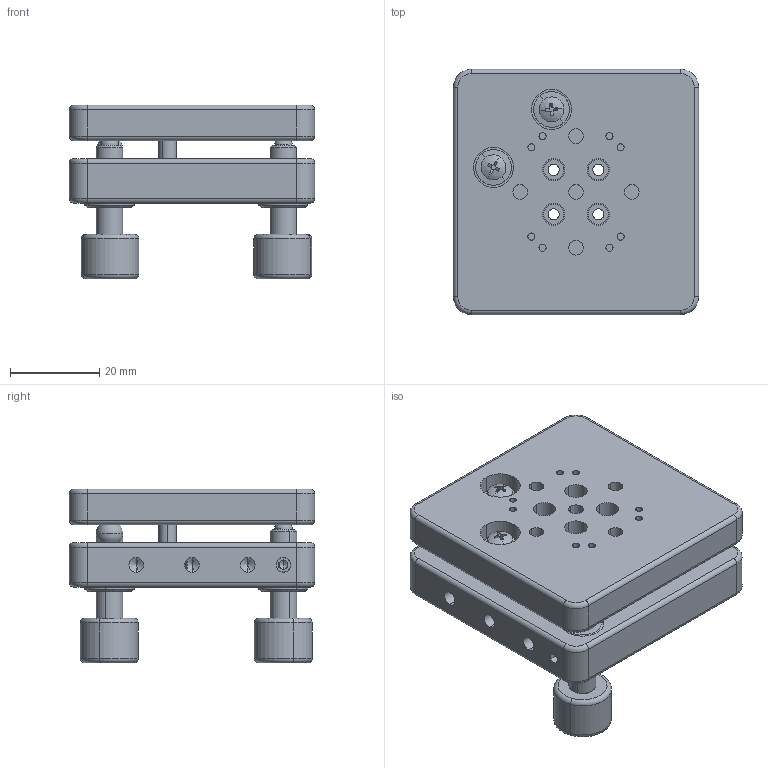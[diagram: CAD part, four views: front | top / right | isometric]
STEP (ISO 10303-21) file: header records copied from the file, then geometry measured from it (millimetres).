
FILE_DESCRIPTION (( 'STEP AP203' ), '1' );
FILE_NAME ('7SIM0405倾斜台.STEP', '2022-05-24T06:42:09', ( '' ), ( '' ), 'SwSTEP 2.0', 'SolidWorks 2018', '' );
FILE_SCHEMA (( 'CONFIG_CONTROL_DESIGN' ));
Length unit declared in the file: millimetre
Products named in the file (1): 7SIM0405ъ訇怢
Bounding box: 55 x 55 x 39 mm (x, y, z)
Volume: 53915.8 mm3; surface area: 25835.4 mm2
Topology: 34 solids, 34 shells, 566 faces, 1313 edges, 798 vertices
Faces by surface type: cylinder 256, plane 154, cone 114, torus 24, sphere 18
Entity records: 16193 total; most frequent: DIRECTION 3024, CARTESIAN_POINT 2964, ORIENTED_EDGE 2520, EDGE_CURVE 1260, AXIS2_PLACEMENT_3D 1257, VERTEX_POINT 785, CIRCLE 690, EDGE_LOOP 685
